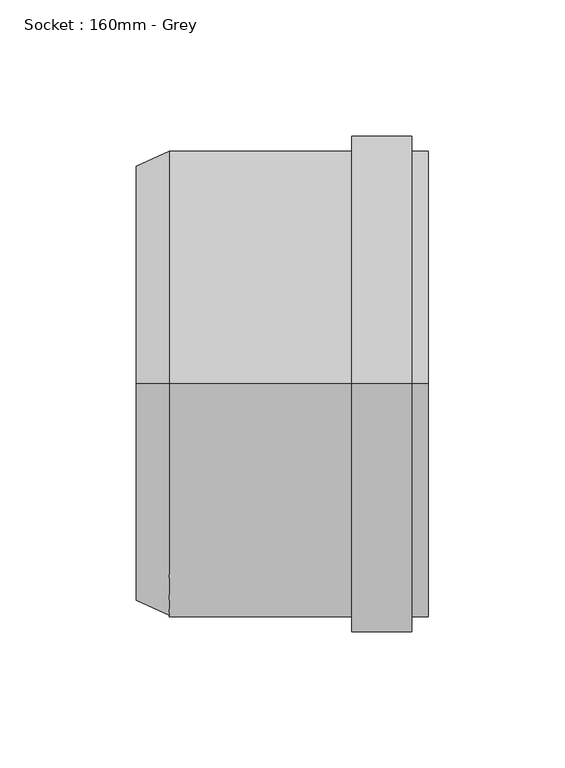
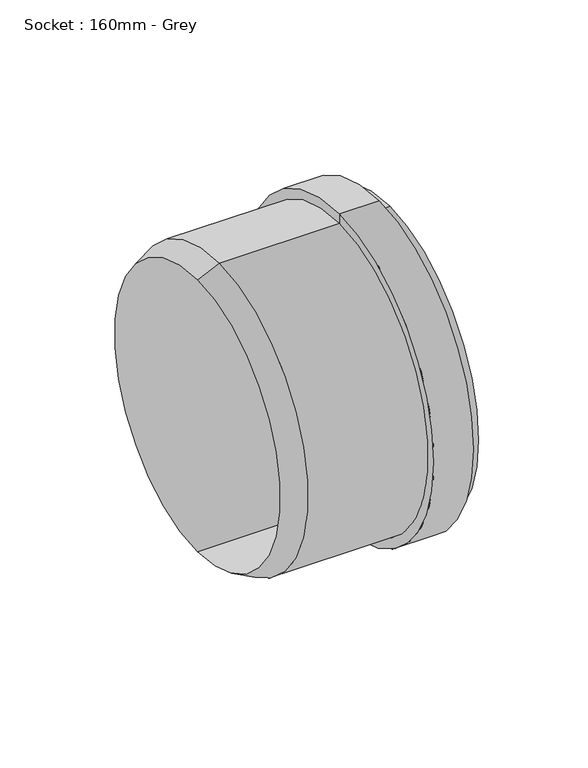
"""IFC4 building model written with IfcOpenShell, lengths in millimetres: pipe fitting geometry, Socket : 160mm - Grey."""

from ifc_helpers import new_model, si_unit, frame, origin, place, context, project, spatial, polyline, circle_curve, source, transform, mapped, element, save
from ifc_brep_helpers import plane_surface, cylinder_surface, revolved_surface, advanced_brep


def socket_160mm_grey_d93e64ae(model_context):
    return source(origin(), model_context, "Body", "AdvancedBrep", [
        advanced_brep(
        [(-14.8253818, 0.0, -80.0), (-14.8253818, 0.0, 80.0), (-2.8253818, 0.0, 85.5), (-2.8253818, 0.0, -85.5), (92.1746182, 0.0, -80.0), (92.1746182, 0.0, 80.0), (92.1746182, 0.0, -85.5), (92.1746182, 0.0, 85.5), (86.1746182, 0.0, -85.5), (86.1746182, 0.0, 85.5), (86.1746182, 0.0, -91.0), (86.1746182, 0.0, 91.0), (64.1746182, 0.0, -91.0), (64.1746182, 0.0, 91.0), (64.1746182, 0.0, -85.5), (64.1746182, 0.0, 85.5)],
        [
            (0, 1, circle_curve(frame((-14.8253818, 0.0, 0.0), z_axis=(1.0, 0.0, 0.0), x_axis=(0.0, 0.0, 1.0)), 80.0)),
            (1, 2),
            (2, 3, circle_curve(frame((-2.8253818, 0.0, 0.0), z_axis=(-1.0, 0.0, 0.0), x_axis=(0.0, 0.0, 1.0)), 85.5)),
            (3, 0),
            (1, 0, circle_curve(frame((-14.8253818, 0.0, 0.0), z_axis=(1.0, 0.0, 0.0), x_axis=(0.0, 0.0, 1.0)), 80.0)),
            (3, 2, circle_curve(frame((-2.8253818, 0.0, 0.0), z_axis=(-1.0, 0.0, 0.0), x_axis=(0.0, 0.0, 1.0)), 85.5)),
            (4, 5, circle_curve(frame((92.1746182, 0.0, 0.0), z_axis=(1.0, 0.0, 0.0), x_axis=(0.0, 0.0, 1.0)), 80.0)),
            (5, 1),
            (0, 4),
            (5, 4, circle_curve(frame((92.1746182, 0.0, 0.0), z_axis=(1.0, 0.0, 0.0), x_axis=(0.0, 0.0, 1.0)), 80.0)),
            (6, 7, circle_curve(frame((92.1746182, 0.0, 0.0), z_axis=(1.0, 0.0, 0.0), x_axis=(0.0, 0.0, 1.0)), 85.5)),
            (7, 5),
            (4, 6),
            (7, 6, circle_curve(frame((92.1746182, 0.0, 0.0), z_axis=(1.0, 0.0, 0.0), x_axis=(0.0, 0.0, 1.0)), 85.5)),
            (8, 9, circle_curve(frame((86.1746182, 0.0, 0.0), z_axis=(1.0, 0.0, 0.0), x_axis=(0.0, 0.0, 1.0)), 85.5)),
            (9, 7),
            (6, 8),
            (9, 8, circle_curve(frame((86.1746182, 0.0, 0.0), z_axis=(1.0, 0.0, 0.0), x_axis=(0.0, 0.0, 1.0)), 85.5)),
            (10, 11, circle_curve(frame((86.1746182, 0.0, 0.0), z_axis=(1.0, 0.0, 0.0), x_axis=(0.0, 0.0, 1.0)), 91.0)),
            (11, 9),
            (8, 10),
            (11, 10, circle_curve(frame((86.1746182, 0.0, 0.0), z_axis=(1.0, 0.0, 0.0), x_axis=(0.0, 0.0, 1.0)), 91.0)),
            (12, 13, circle_curve(frame((64.1746182, 0.0, 0.0), z_axis=(1.0, 0.0, 0.0), x_axis=(0.0, 0.0, 1.0)), 91.0)),
            (13, 11),
            (10, 12),
            (13, 12, circle_curve(frame((64.1746182, 0.0, 0.0), z_axis=(1.0, 0.0, 0.0), x_axis=(0.0, 0.0, 1.0)), 91.0)),
            (14, 15, circle_curve(frame((64.1746182, 0.0, 0.0), z_axis=(1.0, 0.0, 0.0), x_axis=(0.0, 0.0, 1.0)), 85.5)),
            (15, 13),
            (12, 14),
            (15, 14, circle_curve(frame((64.1746182, 0.0, 0.0), z_axis=(1.0, 0.0, 0.0), x_axis=(0.0, 0.0, 1.0)), 85.5)),
            (2, 15),
            (14, 3),
        ],
        [
            revolved_surface(polyline([(-2.8253818, 0.0, 85.5), (-14.8253818, 0.0, 80.0)]), (-1506.5299635, 0.0, 0.0), (-1.0, 0.0, 0.0)),
            revolved_surface(polyline([(-14.82538180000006, 0.0, 80.0), (92.17461819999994, 0.0, 80.0)]), (-1506.5299635, 0.0, 0.0), (-1.0, 0.0, 0.0)),
            plane_surface(frame((92.1746182, 0.0, 0.0), z_axis=(1.0, 0.0, 0.0), x_axis=(0.0, 0.0, 1.0))),
            cylinder_surface(frame((-1506.5299635, 0.0, 0.0), z_axis=(-1.0, 0.0, 0.0), x_axis=(0.0, 0.0, 1.0)), 85.5),
            plane_surface(frame((86.1746182, 0.0, 0.0), z_axis=(1.0, 0.0, 0.0), x_axis=(0.0, 0.0, 1.0))),
            cylinder_surface(frame((-1506.5299635, 0.0, 0.0), z_axis=(-1.0, 0.0, 0.0), x_axis=(0.0, 0.0, 1.0)), 91.0),
            plane_surface(frame((64.1746182, 0.0, 0.0), z_axis=(-1.0, 0.0, 0.0), x_axis=(0.0, 0.0, 1.0))),
        ],
        [
            (0, [[1, 2, 3, 4]]),
            (0, [[5, -4, 6, -2]]),
            (1, [[7, 8, -1, 9]]),
            (1, [[10, -9, -5, -8]]),
            (2, [[11, 12, -7, 13]]),
            (2, [[14, -13, -10, -12]]),
            (3, [[15, 16, -11, 17]]),
            (3, [[18, -17, -14, -16]]),
            (4, [[19, 20, -15, 21]]),
            (4, [[22, -21, -18, -20]]),
            (5, [[23, 24, -19, 25]]),
            (5, [[26, -25, -22, -24]]),
            (6, [[27, 28, -23, 29]]),
            (6, [[30, -29, -26, -28]]),
            (3, [[-3, 31, -27, 32]]),
            (3, [[-6, -32, -30, -31]]),
        ],
    ),
    ])


if __name__ == "__main__":
    model = new_model("IFC4")
    model_context = context("Model", 3, world=origin())
    ifc_project = project(units=[si_unit("LENGTHUNIT", "METRE", prefix="MILLI")], contexts=[model_context])
    site = spatial("IfcSite", under=ifc_project)
    building = spatial("IfcBuilding", under=site)
    placement = place(None, origin())
    socket_160mm_grey_shape = socket_160mm_grey_d93e64ae(model_context)
    element("IfcPipeFitting", 1, ObjectType="Socket : 160mm - Grey", at=placement, inside=building, context=model_context, shape_type="MappedRepresentation", body=[
        mapped(socket_160mm_grey_shape, transform((0.0, 0.0, 0.0), x_axis=(1.0, 0.0, 0.0), y_axis=(0.0, 1.0, 0.0), z_axis=(0.0, 0.0, 1.0))),
    ])
    save(model, "model.ifc")
